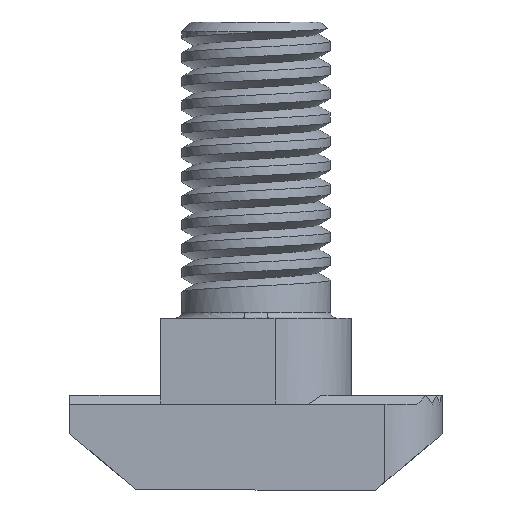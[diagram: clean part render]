
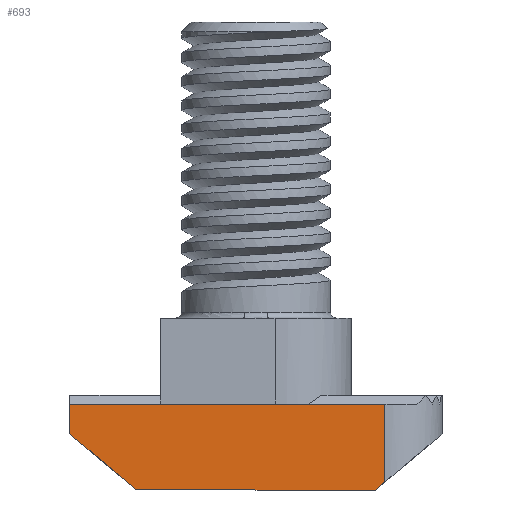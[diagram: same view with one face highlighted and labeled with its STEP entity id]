
A CAD part, front view. The second image highlights one B-rep face of the part: STEP entity #693.
In plain terms, the highlighted planar face has unit normal (0, -1, 0).
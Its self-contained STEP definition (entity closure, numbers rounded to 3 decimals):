
#319 = DIRECTION ( 'NONE',  ( 1., 0., 0. ) ) ;
#395 = DIRECTION ( 'NONE',  ( 0., 0., 1. ) ) ;
#460 = CARTESIAN_POINT ( 'NONE',  ( 9., -3.853, 2.937 ) ) ;
#467 = EDGE_CURVE ( 'NONE', #1290, #4177, #3973, .T. ) ;
#488 = EDGE_CURVE ( 'NONE', #4177, #1711, #3932, .T. ) ;
#550 = CARTESIAN_POINT ( 'NONE',  ( 6., -3.853, 0.42 ) ) ;
#555 = CARTESIAN_POINT ( 'NONE',  ( 6., -3.853, 4.5 ) ) ;
#574 = DIRECTION ( 'NONE',  ( 0.766, 0., 0.643 ) ) ;
#651 = EDGE_CURVE ( 'NONE', #1796, #2210, #3853, .T. ) ;
#661 = DIRECTION ( 'NONE',  ( 0., 0., -1. ) ) ;
#693 = ADVANCED_FACE ( 'NONE', ( #3827 ), #1001, .F. ) ;
#834 = CARTESIAN_POINT ( 'NONE',  ( -10.5, -3.853, 4.5 ) ) ;
#901 = DIRECTION ( 'NONE',  ( 0., 1., 0. ) ) ;
#917 = DIRECTION ( 'NONE',  ( 0., 0., 1. ) ) ;
#985 = DIRECTION ( 'NONE',  ( 0.766, 0., -0.643 ) ) ;
#1001 = PLANE ( 'NONE',  #2933 ) ;
#1095 = CARTESIAN_POINT ( 'NONE',  ( -10.5, -3.853, 0. ) ) ;
#1159 = CARTESIAN_POINT ( 'NONE',  ( -10.5, -3.853, 2.937 ) ) ;
#1250 = CARTESIAN_POINT ( 'NONE',  ( -10.5, -3.853, 4.5 ) ) ;
#1290 = VERTEX_POINT ( 'NONE', #4643 ) ;
#1711 = VERTEX_POINT ( 'NONE', #3156 ) ;
#1734 = EDGE_LOOP ( 'NONE', ( #1935, #2505, #1897, #2641, #1869, #2374 ) ) ;
#1796 = VERTEX_POINT ( 'NONE', #3249 ) ;
#1869 = ORIENTED_EDGE ( 'NONE', *, *, #651, .T. ) ;
#1897 = ORIENTED_EDGE ( 'NONE', *, *, #1997, .F. ) ;
#1935 = ORIENTED_EDGE ( 'NONE', *, *, #467, .T. ) ;
#1941 = VECTOR ( 'NONE', #4045, 1000. ) ;
#1995 = LINE ( 'NONE', #1095, #1941 ) ;
#1997 = EDGE_CURVE ( 'NONE', #4498, #1711, #3225, .T. ) ;
#2151 = CARTESIAN_POINT ( 'NONE',  ( -10.5, -3.853, 4.5 ) ) ;
#2210 = VERTEX_POINT ( 'NONE', #4548 ) ;
#2374 = ORIENTED_EDGE ( 'NONE', *, *, #4341, .T. ) ;
#2505 = ORIENTED_EDGE ( 'NONE', *, *, #488, .T. ) ;
#2543 = EDGE_CURVE ( 'NONE', #4498, #1796, #2987, .T. ) ;
#2641 = ORIENTED_EDGE ( 'NONE', *, *, #2543, .T. ) ;
#2933 = AXIS2_PLACEMENT_3D ( 'NONE', #834, #901, #917 ) ;
#2977 = VECTOR ( 'NONE', #661, 1000. ) ;
#2987 = LINE ( 'NONE', #4611, #2977 ) ;
#3156 = CARTESIAN_POINT ( 'NONE',  ( 6., -3.853, 4.5 ) ) ;
#3218 = VECTOR ( 'NONE', #319, 1000. ) ;
#3225 = LINE ( 'NONE', #2151, #3218 ) ;
#3249 = CARTESIAN_POINT ( 'NONE',  ( -10.5, -3.853, 2.937 ) ) ;
#3827 = FACE_OUTER_BOUND ( 'NONE', #1734, .T. ) ;
#3848 = VECTOR ( 'NONE', #985, 1000. ) ;
#3853 = LINE ( 'NONE', #1159, #3848 ) ;
#3928 = VECTOR ( 'NONE', #395, 1000. ) ;
#3932 = LINE ( 'NONE', #555, #3928 ) ;
#3943 = VECTOR ( 'NONE', #574, 1000. ) ;
#3973 = LINE ( 'NONE', #460, #3943 ) ;
#4045 = DIRECTION ( 'NONE',  ( 1., 0., 0. ) ) ;
#4177 = VERTEX_POINT ( 'NONE', #550 ) ;
#4341 = EDGE_CURVE ( 'NONE', #2210, #1290, #1995, .T. ) ;
#4498 = VERTEX_POINT ( 'NONE', #1250 ) ;
#4548 = CARTESIAN_POINT ( 'NONE',  ( -7., -3.853, 0. ) ) ;
#4611 = CARTESIAN_POINT ( 'NONE',  ( -10.5, -3.853, 4.5 ) ) ;
#4643 = CARTESIAN_POINT ( 'NONE',  ( 5.5, -3.853, 0. ) ) ;
